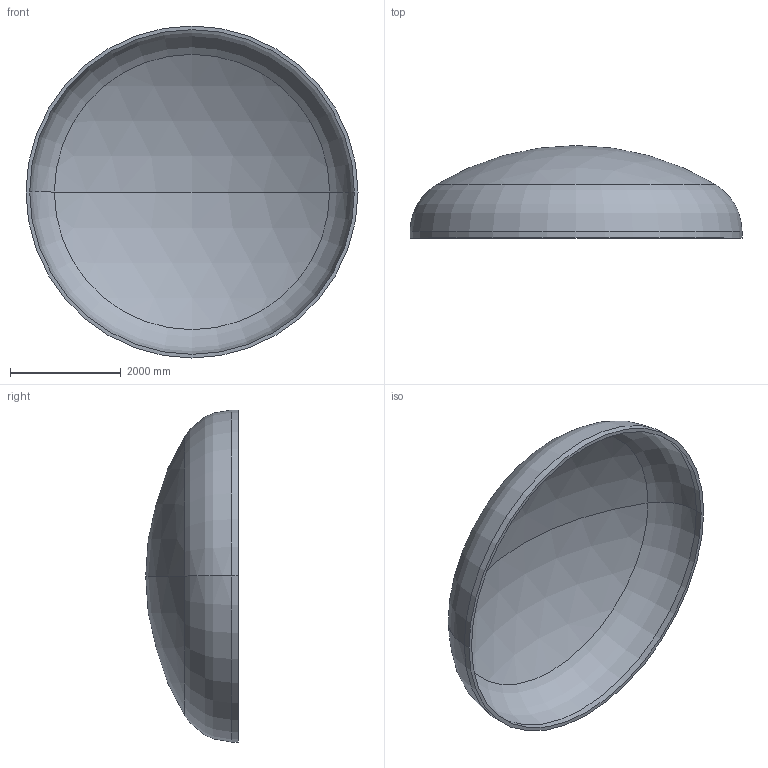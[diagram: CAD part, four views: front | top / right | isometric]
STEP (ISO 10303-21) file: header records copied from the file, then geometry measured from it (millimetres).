
FILE_DESCRIPTION (( 'STEP AP203' ), '1' );
FILE_NAME ('DIN 28013 Korbbogenform_-_Boden DIN 28013 - 6000 x 120 - I - s=66.step', '2016-07-04T10:37:50', ( '' ), ( '' ), 'SwSTEP 2.0', 'SolidWorks 2013', '' );
FILE_SCHEMA (( 'CONFIG_CONTROL_DESIGN' ));
Length unit declared in the file: millimetre
Products named in the file (1): DIN 28013 Korbbogenform_-_Boden DIN 28013 - 6000 x 120 - I - s=66
Bounding box: 6000 x 1672.46 x 6000 mm (x, y, z)
Volume: 2695393736.8 mm3; surface area: 82918076.3 mm2
Topology: 1 solids, 1 shells, 13 faces, 24 edges, 14 vertices
Faces by surface type: torus 4, cylinder 4, sphere 4, plane 1
Entity records: 407 total; most frequent: DIRECTION 72, CARTESIAN_POINT 52, ORIENTED_EDGE 48, AXIS2_PLACEMENT_3D 34, EDGE_CURVE 24, CIRCLE 20, VERTEX_POINT 14, EDGE_LOOP 14
